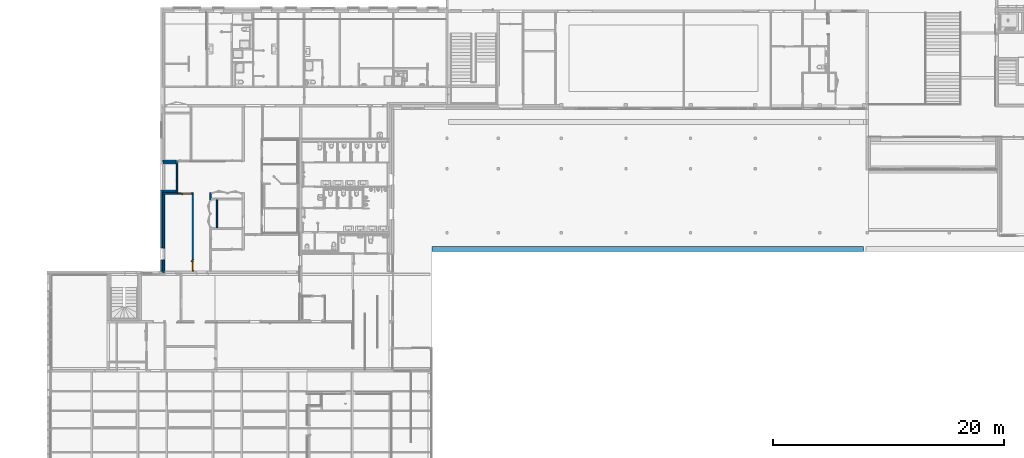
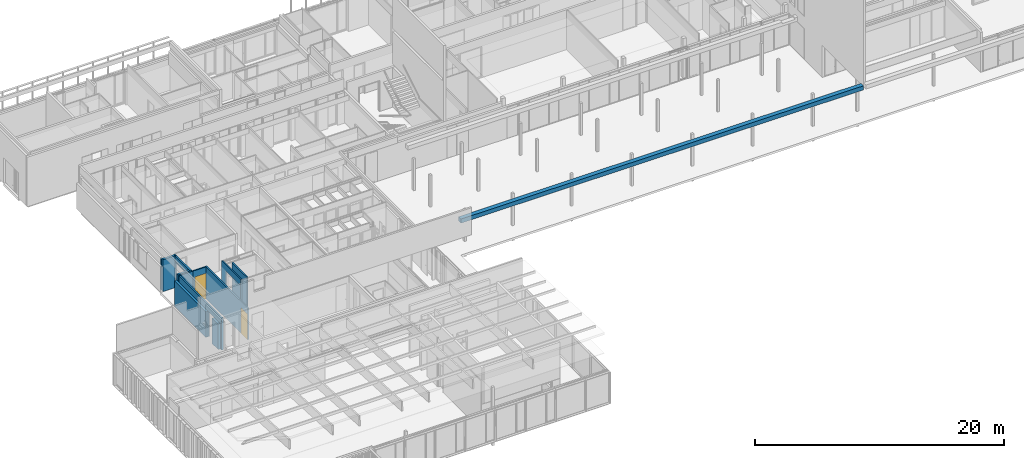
# One storey, part 95 of 240: 13 walls, 2 doors, 14 openings.
"""IFC2X3 building model written with IfcOpenShell, lengths in centimetres."""

from ifc_helpers import new_model, entity, si_unit, converted_unit, derived_unit, direction, frame, frame_2d, origin, origin_2d_with_axis, place, context, subcontext, project, spatial, rectangle, extrude, faceted_brep, source, transform, mapped, material, material_list, layer, layer_set, layer_usage, type_object, type_shapes, element, fill, save


model = new_model("IFC2X3")

# Units and contexts
model_context = context("Model", 3, precision=0.001, world=origin(), true_north=direction((6.12303176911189e-17, 1.0)))
body_context = subcontext(model_context, "Body", "Model", "MODEL_VIEW")
ifc_project = project(units=[si_unit("LENGTHUNIT", "METRE", prefix="CENTI"), si_unit("AREAUNIT", "SQUARE_METRE"), si_unit("VOLUMEUNIT", "CUBIC_METRE"), converted_unit("PLANEANGLEUNIT", "DEGREE", entity("IfcRatioMeasure", 0.0174532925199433), si_unit("PLANEANGLEUNIT", "RADIAN"), dimensions=[0, 0, 0, 0, 0, 0, 0]), si_unit("MASSUNIT", "GRAM", prefix="KILO"), derived_unit("MASSDENSITYUNIT", [(si_unit("MASSUNIT", "GRAM", prefix="KILO"), 1), (si_unit("LENGTHUNIT", "METRE"), -3)]), si_unit("TIMEUNIT", "SECOND"), si_unit("FREQUENCYUNIT", "HERTZ"), si_unit("THERMODYNAMICTEMPERATUREUNIT", "DEGREE_CELSIUS"), derived_unit("THERMALTRANSMITTANCEUNIT", [(si_unit("MASSUNIT", "GRAM", prefix="KILO"), 1), (si_unit("THERMODYNAMICTEMPERATUREUNIT", "KELVIN"), -1), (si_unit("TIMEUNIT", "SECOND"), -3)]), derived_unit("VOLUMETRICFLOWRATEUNIT", [(si_unit("LENGTHUNIT", "METRE"), 3), (si_unit("TIMEUNIT", "SECOND"), -1)]), si_unit("ELECTRICCURRENTUNIT", "AMPERE"), si_unit("ELECTRICVOLTAGEUNIT", "VOLT"), si_unit("POWERUNIT", "WATT"), si_unit("FORCEUNIT", "NEWTON", prefix="KILO"), si_unit("ILLUMINANCEUNIT", "LUX"), si_unit("LUMINOUSFLUXUNIT", "LUMEN"), si_unit("LUMINOUSINTENSITYUNIT", "CANDELA"), derived_unit("USERDEFINED", [(si_unit("MASSUNIT", "GRAM", prefix="KILO"), -1), (si_unit("LENGTHUNIT", "METRE"), -2), (si_unit("TIMEUNIT", "SECOND"), 3), (si_unit("LUMINOUSFLUXUNIT", "LUMEN"), 1)]), derived_unit("LINEARVELOCITYUNIT", [(si_unit("LENGTHUNIT", "METRE"), 1), (si_unit("TIMEUNIT", "SECOND"), -1)]), si_unit("PRESSUREUNIT", "PASCAL"), derived_unit("USERDEFINED", [(si_unit("LENGTHUNIT", "METRE"), -2), (si_unit("MASSUNIT", "GRAM", prefix="KILO"), 1), (si_unit("TIMEUNIT", "SECOND"), -2)])], contexts=[model_context])

# Site, building, storey
site_placement = place(None, frame((-2781.94577612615, 7442.24238424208, 0.0)))
site = spatial("IfcSite", under=ifc_project, at=site_placement, Name="Default", CompositionType="ELEMENT")
building_placement = place(site_placement, origin())
building = spatial("IfcBuilding", under=site, at=building_placement, CompositionType="ELEMENT")
storey_placement = place(building_placement, origin())
storey = spatial("IfcBuildingStorey", under=building, at=storey_placement, Name="N00 - COO", CompositionType="ELEMENT", Elevation=0.0)

# Walls
ifc_material_1 = material(Name="00 - Isolant")
ifc_layer_1 = layer(ifc_material_1, 14.0)
ifc_material_2 = material(Name="01 - Enduit/Plâtre")
ifc_layer_2 = layer(ifc_material_2, 1.3)
ifc_layer_set_1 = layer_set([ifc_layer_1, ifc_layer_2], Name="Mur de base:04 - Parement -  isolant 14 cm + BA13")
ifc_layer_usage_1 = layer_usage(ifc_layer_set_1, "AXIS2", "POSITIVE", -7.65)
wall_type_1 = type_object("IfcWallType", Name="Mur de base:04 - Parement -  isolant 14 cm + BA13", PredefinedType="STANDARD", material=ifc_layer_set_1)
wall_1_placement = place(building_placement, frame((-10881.6130476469, -2398.72903364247, 0.0)))
element("IfcWallStandardCase", 1, at=wall_1_placement, inside=storey, type_object=wall_type_1, material=ifc_layer_usage_1, Name="Mur de base:04 - Parement -  isolant 14 cm + BA13", ObjectType="Mur de base:04 - Parement -  isolant 14 cm + BA13", context=body_context, shape_type="SweptSolid", body=[
    extrude(rectangle(XDim=114.000000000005, YDim=15.3, at=frame_2d((57.0000000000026, 3.5527136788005e-15), x_axis=(-1.0, 0.0))), origin(), (0.0, 0.0, 1.0), 302.0),
])
ifc_layer_usage_2 = layer_usage(ifc_layer_set_1, "AXIS2", "POSITIVE", -7.65)
wall_2_placement = place(building_placement, frame((-10752.3130476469, -2677.42903364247, 0.0), z_axis=(0.0, 0.0, 1.0), x_axis=(-1.0, 0.0, 0.0)))
element("IfcWallStandardCase", 2, at=wall_2_placement, inside=storey, type_object=wall_type_1, material=ifc_layer_usage_2, Name="Mur de base:04 - Parement -  isolant 14 cm + BA13", ObjectType="Mur de base:04 - Parement -  isolant 14 cm + BA13", context=body_context, shape_type="SweptSolid", body=[
    extrude(rectangle(XDim=129.300000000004, YDim=15.3, at=frame_2d((64.6500000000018, 4.66293670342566e-14), x_axis=(-1.0, 0.0))), origin(), (0.0, 0.0, 1.0), 313.0),
])

# Wall, openings
ifc_layer_usage_3 = layer_usage(ifc_layer_set_1, "AXIS2", "NEGATIVE", 7.65)
wall_3_placement = place(building_placement, frame((-10873.9630476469, -3372.52180651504, 0.0), z_axis=(0.0, 0.0, 1.0), x_axis=(0.0, 1.0, 0.0)))
wall_3 = element("IfcWallStandardCase", 3, at=wall_3_placement, inside=storey, type_object=wall_type_1, material=ifc_layer_usage_3, Name="Mur de base:04 - Parement -  isolant 14 cm + BA13", ObjectType="Mur de base:04 - Parement -  isolant 14 cm + BA13", context=body_context, shape_type="SweptSolid", body=[
    extrude(rectangle(XDim=687.442772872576, YDim=15.3000000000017, at=frame_2d((343.721386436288, 4.2499337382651e-13), x_axis=(-1.0, 0.0))), origin(), (0.0, 0.0, 1.0), 313.0),
])
opening_1_placement = place(wall_3_placement, origin())
element("IfcOpeningElement", 4, at=opening_1_placement, cuts=wall_3, Name="Mur de base:04 - Parement -  isolant 14 cm + BA13", ObjectType="Opening", context=body_context, shape_type="SweptSolid", body=[
    extrude(rectangle(XDim=250.000000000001, YDim=99.9999999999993, at=frame_2d((0.0, 2.16715534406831e-13), x_axis=(1.0, 0.0))), frame((168.250226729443, -124.75, 125.0), z_axis=(0.0, 1.0, 0.0), x_axis=(0.0, 0.0, 1.0)), (0.0, 0.0, 1.0), 304.8),
])
opening_2_placement = place(wall_3_placement, origin())
element("IfcOpeningElement", 5, at=opening_2_placement, cuts=wall_3, Name="Mur de base:04 - Parement -  isolant 14 cm + BA13", ObjectType="Opening", context=body_context, shape_type="SweptSolid", body=[
    extrude(rectangle(XDim=175.0, YDim=144.0, at=frame_2d((0.0, 0.0), x_axis=(0.0, 1.0))), frame((1242.44277287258, -22.8899999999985, 162.5), z_axis=(0.0, 1.0, 0.0), x_axis=(-1.0, 0.0, 0.0)), (0.0, 0.0, 1.0), 45.78),
])
opening_3_placement = place(wall_3_placement, origin())
element("IfcOpeningElement", 6, at=opening_3_placement, cuts=wall_3, Name="Mur de base:04 - Parement -  isolant 14 cm + BA13", ObjectType="Opening", context=body_context, shape_type="SweptSolid", body=[
    extrude(rectangle(XDim=265.0, YDim=149.999999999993, at=origin_2d_with_axis()), frame((1537.48228974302, -33.5499999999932, 117.5), z_axis=(0.0, 1.0, 0.0), x_axis=(0.0, 0.0, -1.0)), (0.0, 0.0, 1.0), 61.2999999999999),
])
opening_4_placement = place(wall_3_placement, origin())
element("IfcOpeningElement", 7, at=opening_4_placement, cuts=wall_3, Name="Mur de base:04 - Parement -  isolant 14 cm + BA13", ObjectType="Opening", context=body_context, shape_type="SweptSolid", body=[
    extrude(rectangle(XDim=175.0, YDim=68.0000000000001, at=frame_2d((0.0, 0.0), x_axis=(0.0, 1.0))), frame((1348.44277287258, -144.749999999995, 162.5), z_axis=(0.0, 1.0, 0.0), x_axis=(-1.0, 0.0, 0.0)), (0.0, 0.0, 1.0), 304.8),
])

# Wall
ifc_layer_usage_4 = layer_usage(ifc_layer_set_1, "AXIS2", "NEGATIVE", 7.65)
wall_4_placement = place(storey_placement, frame((-10759.9630476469, -2673.07903364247, 257.0), z_axis=(0.0, 0.0, 1.0), x_axis=(0.0, 1.0, 0.0)))
element("IfcWallStandardCase", 8, at=wall_4_placement, inside=storey, type_object=wall_type_1, material=ifc_layer_usage_4, Name="Mur de base:04 - Parement -  isolant 14 cm + BA13", ObjectType="Mur de base:04 - Parement -  isolant 14 cm + BA13", context=body_context, shape_type="SweptSolid", body=[
    extrude(rectangle(XDim=246.699999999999, YDim=15.3000000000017, at=frame_2d((123.35, 1.59872115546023e-13), x_axis=(-1.0, 0.0))), origin(), (0.0, 0.0, 1.0), 55.9999999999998),
])

# Wall, openings
ifc_layer_usage_5 = layer_usage(ifc_layer_set_1, "AXIS2", "POSITIVE", -7.65)
wall_5_placement = place(building_placement, frame((-10759.9630476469, -2391.07903364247, 0.0), z_axis=(0.0, 0.0, 1.0), x_axis=(0.0, -1.0, 0.0)))
wall_5 = element("IfcWallStandardCase", 9, at=wall_5_placement, inside=storey, type_object=wall_type_1, material=ifc_layer_usage_5, Name="Mur de base:04 - Parement -  isolant 14 cm + BA13", ObjectType="Mur de base:04 - Parement -  isolant 14 cm + BA13", context=body_context, shape_type="SweptSolid", body=[
    extrude(rectangle(XDim=266.699999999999, YDim=15.3, at=frame_2d((145.350000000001, 8.65973959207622e-13), x_axis=(1.0, 0.0))), origin(), (0.0, 0.0, 1.0), 313.0),
])
opening_5_placement = place(building_placement, frame((-10759.9630476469, -2391.07903364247, 0.0), z_axis=(0.0, 0.0, 1.0), x_axis=(0.0, -1.0, 0.0)))
element("IfcOpeningElement", 10, at=opening_5_placement, cuts=wall_5, Name="Mur de base:04 - Parement -  isolant 14 cm + BA13:1", ObjectType="Opening", context=body_context, shape_type="SweptSolid", body=[
    extrude(rectangle(XDim=5.21225432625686, YDim=0.173074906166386, at=frame_2d((8.66196003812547e-13, -2.16569817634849e-13), x_axis=(1.0, 0.0))), frame((35.386537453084, 5.0438728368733, 250.0), z_axis=(0.0, 0.0, 1.0), x_axis=(0.0, -1.0, 0.0)), (0.0, 0.0, 1.0), 6.99999999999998),
])
opening_6_placement = place(wall_5_placement, frame((-2391.07903364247, 10759.9630476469, 0.0), z_axis=(0.0, 0.0, 1.0), x_axis=(0.0, 1.0, 0.0)))
element("IfcOpeningElement", 11, at=opening_6_placement, cuts=wall_5, Name="Mur de base:04 - Parement -  isolant 14 cm + BA13", ObjectType="Opening", context=body_context, shape_type="SweptSolid", body=[
    extrude(rectangle(XDim=265.000000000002, YDim=223.226925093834, at=frame_2d((0.0, 0.0), x_axis=(0.0, 1.0))), frame((-10767.7130476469, -2538.16557109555, 117.500000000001), z_axis=(1.0, 0.0, 0.0), x_axis=(0.0, -1.0, 0.0)), (0.0, 0.0, 1.0), 61.1877456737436),
])

# Walls
ifc_material_3 = material(Name="01 - Maçonnerie")
ifc_layer_3 = layer(ifc_material_3, 20.0)
ifc_layer_set_2 = layer_set([ifc_layer_3], Name="Mur de base:04 - Structure - béton - 20cm")
ifc_layer_usage_6 = layer_usage(ifc_layer_set_2, "AXIS2", "NEGATIVE", 10.0)
wall_type_2 = type_object("IfcWallType", Name="Mur de base:04 - Structure - béton - 20cm", PredefinedType="STANDARD", material=ifc_layer_set_2)
wall_6_placement = place(building_placement, frame((-10767.6130476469, -2416.37903364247, 0.0), z_axis=(0.0, 0.0, 1.0), x_axis=(-1.0, 0.0, 0.0)))
element("IfcWallStandardCase", 12, at=wall_6_placement, inside=storey, type_object=wall_type_2, material=ifc_layer_usage_6, Name="Mur de base:04 - Structure - béton - 20cm", ObjectType="Mur de base:04 - Structure - béton - 20cm", context=body_context, shape_type="SweptSolid", body=[
    extrude(rectangle(XDim=114.000000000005, YDim=19.9999999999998, at=frame_2d((57.0000000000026, 1.86517468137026e-14), x_axis=(-1.0, 0.0))), origin(), (0.0, 0.0, 1.0), 313.0),
])
ifc_layer_usage_7 = layer_usage(ifc_layer_set_2, "AXIS2", "NEGATIVE", 10.0)
wall_7_placement = place(building_placement, frame((-10767.6130476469, -2659.77903364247, 0.0), z_axis=(0.0, 0.0, 1.0), x_axis=(-1.0, 0.0, 0.0)))
element("IfcWallStandardCase", 13, at=wall_7_placement, inside=storey, type_object=wall_type_2, material=ifc_layer_usage_7, Name="Mur de base:04 - Structure - béton - 20cm", ObjectType="Mur de base:04 - Structure - béton - 20cm", context=body_context, shape_type="SweptSolid", body=[
    extrude(rectangle(XDim=114.0, YDim=19.9999999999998, at=frame_2d((57.0, -1.77635683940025e-14), x_axis=(-1.0, 0.0))), origin(), (0.0, 0.0, 1.0), 313.00000000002),
])

# Wall, openings
ifc_layer_usage_8 = layer_usage(ifc_layer_set_2, "AXIS2", "NEGATIVE", 10.0)
wall_8_placement = place(building_placement, frame((-10891.6130476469, -2649.77903364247, 0.0), z_axis=(0.0, 0.0, 1.0), x_axis=(0.0, -1.0, 0.0)))
wall_8 = element("IfcWallStandardCase", 14, at=wall_8_placement, inside=storey, type_object=wall_type_2, material=ifc_layer_usage_8, Name="Mur de base:04 - Structure - béton - 20cm", ObjectType="Mur de base:04 - Structure - béton - 20cm", context=body_context, shape_type="SweptSolid", body=[
    extrude(rectangle(XDim=702.742772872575, YDim=19.9999999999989, at=frame_2d((351.371386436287, -4.04121180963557e-13), x_axis=(-1.0, 0.0))), origin(), (0.0, 0.0, 1.0), 249.999999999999),
])
opening_7_placement = place(wall_8_placement, origin())
element("IfcOpeningElement", 15, at=opening_7_placement, cuts=wall_8, Name="Mur de base:04 - Structure - béton - 20cm", ObjectType="Opening", context=body_context, shape_type="SweptSolid", body=[
    extrude(rectangle(XDim=175.0, YDim=144.0, at=frame_2d((-2.8421709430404e-14, 0.0), x_axis=(1.0, 0.0))), frame((-519.7, -25.2400000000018, 162.5), z_axis=(0.0, 1.0, 0.0), x_axis=(0.0, 0.0, 1.0)), (0.0, 0.0, 1.0), 50.4800000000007),
])
opening_8_placement = place(wall_8_placement, origin())
element("IfcOpeningElement", 16, at=opening_8_placement, cuts=wall_8, Name="Mur de base:04 - Structure - béton - 20cm", ObjectType="Opening", context=body_context, shape_type="SweptSolid", body=[
    extrude(rectangle(XDim=265.0, YDim=149.999999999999, at=frame_2d((0.0, -1.06581410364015e-13), x_axis=(1.0, 0.0))), frame((-814.739516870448, -10.1000000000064, 117.5), z_axis=(0.0, 1.0, 0.0), x_axis=(0.0, 0.0, -1.0)), (0.0, 0.0, 1.0), 61.2999999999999),
])
opening_9_placement = place(wall_8_placement, origin())
element("IfcOpeningElement", 17, at=opening_9_placement, cuts=wall_8, Name="Mur de base:04 - Structure - béton - 20cm", ObjectType="Opening", context=body_context, shape_type="SweptSolid", body=[
    extrude(rectangle(XDim=175.0, YDim=68.0000000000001, at=frame_2d((-2.1316282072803e-14, 0.0), x_axis=(1.0, 0.0))), frame((-625.699999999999, -142.400000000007, 162.5), z_axis=(0.0, 1.0, 0.0), x_axis=(0.0, 0.0, 1.0)), (0.0, 0.0, 1.0), 304.8),
])
opening_10_placement = place(wall_8_placement, frame((604.492546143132, 10.0, 0.0)))
element("IfcOpeningElement", 18, at=opening_10_placement, cuts=wall_8, Name="Int. Simple:PP EXT - Local poubelle  (0.93m x 2.50m):1", ObjectType="Opening", context=body_context, shape_type="SweptSolid", body=[
    extrude(rectangle(XDim=250.000000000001, YDim=99.9999999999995, at=frame_2d((125.000000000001, 49.9999999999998), x_axis=(1.0, 0.0))), frame((0.0, 0.0, 0.0), z_axis=(0.0, -1.0, 0.0), x_axis=(0.0, 0.0, 1.0)), (0.0, 0.0, 1.0), 20.0),
])

# Wall
ifc_layer_4 = layer(ifc_material_3, 40.0)
ifc_layer_set_3 = layer_set([ifc_layer_4], Name="Mur de base:04 - Structure - Béton - 40")
ifc_layer_usage_9 = layer_usage(ifc_layer_set_3, "AXIS2", "NEGATIVE", 20.0)
wall_type_3 = type_object("IfcWallType", Name="Mur de base:04 - Structure - Béton - 40", PredefinedType="STANDARD", material=ifc_layer_set_3)
wall_9_placement = place(building_placement, frame((-8548.98738089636, -3160.31349958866, 313.0)))
element("IfcWallStandardCase", 19, at=wall_9_placement, inside=storey, type_object=wall_type_3, material=ifc_layer_usage_9, Name="Mur de base:04 - Structure - Béton - 40", ObjectType="Mur de base:04 - Structure - Béton - 40", context=body_context, shape_type="SweptSolid", body=[
    extrude(rectangle(XDim=3736.98750329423, YDim=39.9999999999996, at=frame_2d((1868.49375164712, -9.59232693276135e-14), x_axis=(-1.0, 0.0))), origin(), (0.0, 0.0, 1.0), 40.0),
])

# Wall, opening, door
ifc_layer_5 = layer(ifc_material_2, 1.0)
ifc_material_4 = material(Name="Maçonnerie - Béton")
ifc_layer_6 = layer(ifc_material_4, 10.0)
ifc_layer_7 = layer(ifc_material_2, 1.0)
ifc_layer_set_4 = layer_set([ifc_layer_5, ifc_layer_6, ifc_layer_7], Name="Mur de base:06 - cloisons - agglos10 + faïence 12cm")
ifc_layer_usage_10 = layer_usage(ifc_layer_set_4, "AXIS2", "NEGATIVE", 6.0)
wall_type_4 = type_object("IfcWallType", Name="Mur de base:06 - cloisons - agglos10 + faïence 12cm", PredefinedType="STANDARD", material=ifc_layer_set_4)
wall_10_placement = place(building_placement, frame((-10622.6130476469, -2673.07903364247, 0.0), z_axis=(0.0, 0.0, 1.0), x_axis=(0.0, -1.0, 0.0)))
wall_10 = element("IfcWallStandardCase", 20, at=wall_10_placement, inside=storey, type_object=wall_type_4, material=ifc_layer_usage_10, Name="Mur de base:06 - cloisons - agglos10 + faïence 12cm", ObjectType="Mur de base:06 - cloisons - agglos10 + faïence 12cm", context=body_context, shape_type="SweptSolid", body=[
    extrude(rectangle(XDim=679.442772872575, YDim=12.0000000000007, at=frame_2d((339.721386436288, -1.54987134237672e-13), x_axis=(-1.0, 0.0))), origin(), (0.0, 0.0, 1.0), 313.0),
])
opening_11_placement = place(wall_10_placement, frame((677.942772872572, 6.0, 0.0)))
opening_11 = element("IfcOpeningElement", 21, at=opening_11_placement, cuts=wall_10, Name="Int. Simple:PP simple (0.93m x 2.50m):1", ObjectType="Opening", context=body_context, shape_type="SweptSolid", body=[
    extrude(rectangle(XDim=248.500000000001, YDim=99.9999999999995, at=frame_2d((124.250000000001, 49.9999999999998), x_axis=(1.0, 0.0))), frame((0.0, 0.0, 0.0), z_axis=(0.0, -1.0, 0.0), x_axis=(0.0, 0.0, 1.0)), (0.0, 0.0, 1.0), 12.0),
])
ifc_material_5 = material(Name="Finition Peinture - Blanc satiné")
ifc_material_6 = material(Name="Bois - Panneau de porte")
ifc_material_7 = material(Name="Bois - Cadre de porte")
ifc_material_list_1 = material_list([ifc_material_5, ifc_material_6, ifc_material_7])
ifc_material_list_2 = material_list([ifc_material_5, ifc_material_6, ifc_material_7])
door_style = type_object("IfcDoorStyle", Name="PP simple (0.93m x 2.50m)", ConstructionType="NOTDEFINED", OperationType="SINGLE_SWING_LEFT", ParameterTakesPrecedence=False, Sizeable=False, material=ifc_material_list_2)
shared_shape = source(origin(), body_context, "Body", "Brep", [
    faceted_brep([(10.5352761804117, -0.500000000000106, 86.6003983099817), (11.5000000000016, -0.500000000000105, 87.0), (11.5000000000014, -0.500000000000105, 108.0), (10.5352761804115, -0.500000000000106, 108.399601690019), (9.50000000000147, -0.500000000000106, 108.535898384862), (8.46472381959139, -0.500000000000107, 108.399601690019), (7.50000000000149, -0.500000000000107, 108.0), (7.50000000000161, -0.500000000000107, 87.0), (8.46472381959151, -0.500000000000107, 86.6003983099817), (9.50000000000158, -0.500000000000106, 86.464101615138), (10.5352761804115, 0.0, 108.399601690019), (11.5000000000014, 0.0, 108.0), (11.5000000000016, 0.0, 87.0), (10.5352761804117, 0.0, 86.6003983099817), (9.50000000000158, 0.0, 86.464101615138), (8.46472381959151, 0.0, 86.6003983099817), (7.50000000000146, 0.0, 87.0), (7.50000000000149, 0.0, 108.0), (8.46472381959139, 0.0, 108.399601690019), (9.50000000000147, 0.0, 108.535898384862)], [[[0, 1, 2, 3, 4, 5, 6, 7, 8, 9]], [[10, 11, 12, 13, 14, 15, 16, 17, 18, 19]], [[16, 15, 8, 7]], [[8, 15, 14, 9]], [[14, 13, 0, 9]], [[13, 12, 1, 0]], [[2, 1, 12, 11]], [[11, 10, 3, 2]], [[3, 10, 19, 4]], [[19, 18, 5, 4]], [[18, 17, 6, 5]], [[7, 6, 17, 16]]]),
    faceted_brep([(10.5352761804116, 4.0, 86.6003983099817), (11.5000000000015, 4.0, 87.0), (11.5000000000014, 4.0, 108.0), (10.5352761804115, 4.0, 108.399601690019), (9.50000000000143, 4.0, 108.535898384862), (8.46472381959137, 4.0, 108.399601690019), (7.50000000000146, 4.0, 108.0), (7.50000000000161, 4.0, 87.0), (8.46472381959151, 4.0, 86.6003983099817), (9.50000000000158, 4.0, 86.464101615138), (10.5352761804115, 4.49999999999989, 108.399601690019), (11.5000000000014, 4.49999999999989, 108.0), (11.5000000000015, 4.49999999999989, 87.0), (10.5352761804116, 4.49999999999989, 86.6003983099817), (9.50000000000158, 4.49999999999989, 86.464101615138), (8.46472381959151, 4.49999999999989, 86.6003983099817), (7.50000000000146, 4.49999999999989, 87.0), (7.50000000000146, 4.49999999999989, 108.0), (8.46472381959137, 4.49999999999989, 108.399601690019), (9.50000000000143, 4.49999999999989, 108.535898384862)], [[[0, 1, 2, 3, 4, 5, 6, 7, 8, 9]], [[10, 11, 12, 13, 14, 15, 16, 17, 18, 19]], [[11, 10, 3, 2]], [[3, 10, 19, 4]], [[19, 18, 5, 4]], [[18, 17, 6, 5]], [[7, 6, 17, 16]], [[16, 15, 8, 7]], [[8, 15, 14, 9]], [[14, 13, 0, 9]], [[13, 12, 1, 0]], [[2, 1, 12, 11]]]),
    faceted_brep([(9.29747013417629, -0.500000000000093, 100.778044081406), (9.70252986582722, -0.500000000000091, 100.778044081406), (10.1000000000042, -0.500000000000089, 100.699999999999), (10.1000000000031, -0.500000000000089, 99.3000000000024), (9.7025298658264, -0.500000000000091, 99.2219559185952), (9.29747013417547, -0.500000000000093, 99.221955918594), (8.8999999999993, -0.500000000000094, 99.2999999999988), (8.89999999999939, -0.500000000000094, 100.7), (8.89999999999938, -3.26509507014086, 100.7), (9.29747013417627, -3.10045754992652, 100.778044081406), (10.9023585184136, -4.70534593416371, 100.778044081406), (11.0701397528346, -4.30028620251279, 100.778044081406), (9.7025298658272, -2.93267631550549, 100.778044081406), (10.1000000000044, -2.76803879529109, 100.7), (10.1000000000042, -2.76803879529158, 99.3000000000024), (9.7025298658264, -2.93267631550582, 99.2219559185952), (11.0701397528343, -4.30028620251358, 99.2219559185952), (10.9023585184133, -4.7053459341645, 99.221955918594), (9.29747013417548, -3.10045754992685, 99.221955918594), (8.89999999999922, -3.26509507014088, 99.2999999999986), (10.7377209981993, -5.10281606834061, 100.7), (11.2347772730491, -3.90281606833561, 100.7), (11.2347772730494, -3.90281606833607, 99.3000000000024), (10.7377209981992, -5.10281606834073, 99.2999999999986), (19.5018640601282, -5.10281606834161, 99.2999999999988), (19.5018640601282, -4.70534593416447, 99.221955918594), (19.5018640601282, -4.30028620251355, 99.2219559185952), (19.5018640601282, -3.9028160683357, 99.3000000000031), (19.5018640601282, -3.90281606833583, 100.7), (19.5018640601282, -4.30028620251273, 100.778044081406), (19.5018640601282, -4.70534593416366, 100.778044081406), (19.5018640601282, -5.10281606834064, 100.699999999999), (14.7307697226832, -5.10281606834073, 100.7), (15.2860019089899, -4.5028160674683, 100.78786867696), (15.3683206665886, -3.9028160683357, 100.7), (15.3683206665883, -3.9028160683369, 99.3000000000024), (15.2860018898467, -4.50281607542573, 99.2121313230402), (14.7307700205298, -5.10281606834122, 99.2999999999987)], [[[0, 1, 2, 3, 4, 5, 6, 7]], [[8, 9, 0, 7]], [[9, 10, 11, 12, 1, 0]], [[12, 13, 2, 1]], [[3, 2, 13, 14]], [[14, 15, 4, 3]], [[15, 16, 17, 18, 5, 4]], [[18, 19, 6, 5]], [[7, 6, 19, 8]], [[20, 10, 9, 8]], [[11, 21, 13, 12]], [[14, 13, 21, 22]], [[22, 16, 15, 14]], [[17, 23, 19, 18]], [[8, 19, 23, 20]], [[24, 25, 26, 27, 28, 29, 30, 31]], [[32, 30, 33]], [[31, 30, 32]], [[10, 20, 32]], [[33, 34, 11]], [[21, 11, 34]], [[34, 29, 28]], [[30, 29, 33]], [[29, 34, 33]], [[10, 32, 33]], [[10, 33, 11]], [[22, 21, 34, 28, 27, 35]], [[35, 26, 36]], [[37, 36, 25]], [[22, 35, 16]], [[35, 27, 26]], [[24, 37, 25]], [[23, 17, 37]], [[37, 17, 36]], [[17, 16, 36]], [[16, 35, 36]], [[25, 36, 26]], [[20, 23, 37, 24, 31, 32]]]),
    faceted_brep([(9.29747013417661, 4.49999999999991, 100.778044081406), (8.89999999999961, 4.4999999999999, 100.7), (8.89999999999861, 4.4999999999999, 99.2999999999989), (9.29747013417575, 4.49999999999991, 99.221955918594), (9.70252986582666, 4.49999999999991, 99.2219559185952), (10.1000000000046, 4.49999999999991, 99.3000000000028), (10.1000000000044, 4.49999999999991, 100.7), (9.70252986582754, 4.49999999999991, 100.778044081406), (10.1000000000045, 6.7485204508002, 99.3000000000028), (10.1000000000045, 6.74852045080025, 100.7), (9.70252986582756, 6.91315797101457, 100.778044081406), (11.083890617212, 8.29451872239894, 100.778044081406), (10.916109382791, 8.69957845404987, 100.778044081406), (9.29747013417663, 7.0809392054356, 100.778044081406), (8.89999999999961, 7.24557672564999, 100.7), (8.89999999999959, 7.2455767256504, 99.2999999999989), (9.29747013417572, 7.08093920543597, 99.221955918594), (10.9161093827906, 8.69957845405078, 99.221955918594), (11.0838906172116, 8.29451872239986, 99.2219559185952), (9.70252986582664, 6.91315797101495, 99.2219559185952), (11.2485281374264, 7.89704858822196, 99.3000000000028), (11.2485281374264, 7.89704858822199, 100.7), (10.7514718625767, 9.09704858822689, 100.7), (10.7514718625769, 9.0970485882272, 99.2999999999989), (19.5045783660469, 7.89704858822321, 99.3000000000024), (19.5045783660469, 8.29451872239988, 99.2219559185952), (19.5045783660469, 8.6995784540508, 99.221955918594), (19.5045783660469, 9.09704858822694, 99.2999999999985), (19.5045783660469, 9.09704858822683, 100.7), (19.5045783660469, 8.69957845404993, 100.778044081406), (19.5045783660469, 8.29451872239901, 100.778044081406), (19.5045783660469, 7.89704858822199, 100.7), (15.3765520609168, 7.89704858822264, 99.3000000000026), (15.3765532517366, 7.89704858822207, 100.7), (15.294234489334, 8.49704858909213, 100.78786867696), (14.7445205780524, 9.09704858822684, 100.7), (14.7445204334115, 9.09704858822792, 99.2999999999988), (15.2942345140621, 8.49704858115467, 99.2121313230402)], [[[0, 1, 2, 3, 4, 5, 6, 7]], [[6, 5, 8, 9]], [[9, 10, 7, 6]], [[10, 11, 12, 13, 0, 7]], [[13, 14, 1, 0]], [[2, 1, 14, 15]], [[15, 16, 3, 2]], [[16, 17, 18, 19, 4, 3]], [[19, 8, 5, 4]], [[9, 8, 20, 21]], [[21, 11, 10, 9]], [[12, 22, 14, 13]], [[15, 14, 22, 23]], [[23, 17, 16, 15]], [[18, 20, 8, 19]], [[24, 25, 26, 27, 28, 29, 30, 31]], [[21, 20, 32, 24, 31, 33]], [[33, 30, 34]], [[35, 34, 29]], [[21, 33, 11]], [[33, 31, 30]], [[28, 35, 29]], [[22, 12, 35]], [[35, 12, 34]], [[12, 11, 34]], [[11, 33, 34]], [[29, 34, 30]], [[22, 35, 28, 27, 36, 23]], [[36, 26, 37]], [[27, 26, 36]], [[17, 23, 36]], [[37, 32, 18]], [[20, 18, 32]], [[32, 25, 24]], [[26, 25, 37]], [[25, 32, 37]], [[17, 36, 37]], [[17, 37, 18]]]),
    faceted_brep([(3.50000000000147, 4.0, 245.0), (96.5000000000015, 4.0, 245.0), (96.5000000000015, 4.0, 0.0), (3.50000000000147, 4.0, 0.0), (3.50000000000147, 0.0, 245.0), (3.50000000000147, 0.0, 0.0), (96.5000000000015, 0.0, 0.0), (96.5000000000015, 0.0, 245.0)], [[[0, 1, 2, 3]], [[4, 5, 6, 7]], [[1, 0, 4, 7]], [[2, 1, 7, 6]], [[3, 2, 6, 5]], [[0, 3, 5, 4]]]),
    faceted_brep([(0.0, 12.0, 0.0), (-1.50000000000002, 12.0, 0.0), (-1.50000000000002, 12.5000000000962, 0.0), (5.0, 12.5000000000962, 0.0), (5.0, 4.0, 0.0), (3.50000000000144, 4.0, 0.0), (3.50000000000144, -0.500000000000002, 0.0), (-1.50000000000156, -0.500000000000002, 0.0), (-1.50000000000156, 0.0, 0.0), (0.0, 0.0, 0.0), (0.0, 0.0, 248.500000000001), (0.0, 12.0, 248.500000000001), (100.0, 12.0, 248.500000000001), (100.0, 12.0, 0.0), (101.5, 12.0, 0.0), (101.5, 12.0, 250.0), (-1.50000000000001, 12.0, 250.0), (5.0, 12.5000000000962, 243.5), (5.0, 4.0, 243.5), (95.0, 4.0, 243.5), (95.0, 4.0, 0.0), (96.499999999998, 4.0, 0.0), (96.499999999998, 4.0, 245.0), (3.50000000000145, 4.0, 245.0), (100.0, 0.0, 248.500000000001), (100.0, 0.0, 0.0), (101.500000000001, 0.0, 0.0), (101.500000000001, -0.500000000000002, 0.0), (96.499999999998, -0.500000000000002, 0.0), (95.0, 12.5000000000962, 0.0), (101.5, 12.5000000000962, 0.0), (95.0, 12.5000000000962, 243.5), (3.50000000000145, -0.500000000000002, 245.0), (96.499999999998, -0.500000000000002, 245.0), (101.500000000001, -0.500000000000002, 250.0), (-1.50000000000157, -0.500000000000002, 250.0), (-1.50000000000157, 0.0, 250.0), (101.500000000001, 0.0, 250.0), (-1.50000000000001, 12.5000000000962, 250.0), (101.5, 12.5000000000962, 250.0)], [[[0, 1, 2, 3, 4, 5, 6, 7, 8, 9]], [[0, 9, 10, 11]], [[1, 0, 11, 12, 13, 14, 15, 16]], [[3, 17, 18, 4]], [[5, 4, 18, 19, 20, 21, 22, 23]], [[12, 24, 25, 13]], [[13, 25, 26, 27, 28, 21, 20, 29, 30, 14]], [[19, 31, 29, 20]], [[11, 10, 24, 12]], [[18, 17, 31, 19]], [[5, 23, 32, 6]], [[7, 6, 32, 33, 28, 27, 34, 35]], [[8, 7, 35, 36]], [[9, 8, 36, 37, 26, 25, 24, 10]], [[2, 1, 16, 38]], [[3, 2, 38, 39, 30, 29, 31, 17]], [[33, 22, 21, 28]], [[37, 34, 27, 26]], [[39, 15, 14, 30]], [[32, 23, 22, 33]], [[36, 35, 34, 37]], [[38, 16, 15, 39]]]),
])
type_shapes(door_style, [shared_shape])
door_1_placement = place(opening_11_placement, frame((-100.0, -12.0, 0.0)))
door_1 = element("IfcDoor", 22, at=door_1_placement, inside=storey, type_object=door_style, material=ifc_material_list_1, Name="Int. Simple:PP simple (0.93m x 2.50m)", ObjectType="Int. Simple:PP simple (0.93m x 2.50m)", OverallHeight=248.500000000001, OverallWidth=99.9999999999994, context=body_context, shape_type="MappedRepresentation", body=[
    mapped(shared_shape, transform((0.0, 0.0, 0.0), scale=1.0)),
])
fill(opening_11, door_1)

# Wall, openings
ifc_layer_usage_11 = layer_usage(ifc_layer_set_4, "AXIS2", "NEGATIVE", 6.0)
wall_11_placement = place(building_placement, frame((-10470.6130476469, -2673.07903364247, 0.0), z_axis=(0.0, 0.0, 1.0), x_axis=(0.0, -1.0, 0.0)))
wall_11 = element("IfcWallStandardCase", 23, at=wall_11_placement, inside=storey, type_object=wall_type_4, material=ifc_layer_usage_11, Name="Mur de base:06 - cloisons - agglos10 + faïence 12cm", ObjectType="Mur de base:06 - cloisons - agglos10 + faïence 12cm", context=body_context, shape_type="SweptSolid", body=[
    extrude(rectangle(XDim=305.000000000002, YDim=12.0000000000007, at=frame_2d((152.500000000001, 0.0), x_axis=(-1.0, 0.0))), origin(), (0.0, 0.0, 1.0), 313.0),
])
opening_12_placement = place(wall_11_placement, frame((182.500000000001, 6.0, 0.0)))
element("IfcOpeningElement", 24, at=opening_12_placement, cuts=wall_11, Name="Int. Double:PP Placard (1.10m x 2.50m):1", ObjectType="Opening", context=body_context, shape_type="SweptSolid", body=[
    extrude(rectangle(XDim=248.500000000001, YDim=117.0, at=frame_2d((124.250000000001, 58.5000000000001), x_axis=(1.0, 0.0))), frame((0.0, 0.0, 0.0), z_axis=(0.0, -1.0, 0.0), x_axis=(0.0, 0.0, 1.0)), (0.0, 0.0, 1.0), 12.0),
])
opening_13_placement = place(wall_11_placement, frame((299.500000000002, 6.0, 0.0)))
element("IfcOpeningElement", 25, at=opening_13_placement, cuts=wall_11, Name="Int. Double:PP Placard (1.10m x 2.50m):1", ObjectType="Opening", context=body_context, shape_type="SweptSolid", body=[
    extrude(rectangle(XDim=248.500000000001, YDim=117.0, at=frame_2d((124.250000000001, 58.5000000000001), x_axis=(1.0, 0.0))), frame((0.0, 0.0, 0.0), z_axis=(0.0, -1.0, 0.0), x_axis=(0.0, 0.0, 1.0)), (0.0, 0.0, 1.0), 12.0),
])

# Wall
ifc_layer_usage_12 = layer_usage(ifc_layer_set_4, "AXIS2", "NEGATIVE", 6.0)
wall_12_placement = place(building_placement, frame((-10412.6130476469, -2735.07903364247, 0.0), z_axis=(0.0, 0.0, 1.0), x_axis=(0.0, -1.0, 0.0)))
element("IfcWallStandardCase", 26, at=wall_12_placement, inside=storey, type_object=wall_type_4, material=ifc_layer_usage_12, Name="Mur de base:06 - cloisons - agglos10 + faïence 12cm", ObjectType="Mur de base:06 - cloisons - agglos10 + faïence 12cm", context=body_context, shape_type="SweptSolid", body=[
    extrude(rectangle(XDim=243.0, YDim=12.0000000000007, at=frame_2d((121.5, 0.0), x_axis=(-1.0, 0.0))), origin(), (0.0, 0.0, 1.0), 313.0),
])

# Wall, opening, door
ifc_layer_usage_13 = layer_usage(ifc_layer_set_4, "AXIS2", "NEGATIVE", 6.0)
wall_13_placement = place(building_placement, frame((-10752.3130476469, -2679.07903364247, 0.0)))
wall_13 = element("IfcWallStandardCase", 27, at=wall_13_placement, inside=storey, type_object=wall_type_4, material=ifc_layer_usage_13, Name="Mur de base:06 - cloisons - agglos10 + faïence 12cm", ObjectType="Mur de base:06 - cloisons - agglos10 + faïence 12cm", context=body_context, shape_type="SweptSolid", body=[
    extrude(rectangle(XDim=123.7, YDim=11.9999999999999, at=frame_2d((61.8499999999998, -1.02140518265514e-14), x_axis=(-1.0, 0.0))), origin(), (0.0, 0.0, 1.0), 313.0),
])
opening_14_placement = place(wall_13_placement, frame((122.199999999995, 6.0, 0.0)))
opening_14 = element("IfcOpeningElement", 28, at=opening_14_placement, cuts=wall_13, Name="Int. Simple:PP simple (0.93m x 2.50m):1", ObjectType="Opening", context=body_context, shape_type="SweptSolid", body=[
    extrude(rectangle(XDim=248.500000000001, YDim=99.9999999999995, at=frame_2d((124.250000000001, 50.0), x_axis=(1.0, 0.0))), frame((0.0, 0.0, 0.0), z_axis=(0.0, -1.0, 0.0), x_axis=(0.0, 0.0, 1.0)), (0.0, 0.0, 1.0), 12.0),
])
ifc_material_list_3 = material_list([ifc_material_5, ifc_material_6, ifc_material_7])
door_2_placement = place(opening_14_placement, frame((-100.0, -12.0, 0.0)))
door_2 = element("IfcDoor", 29, at=door_2_placement, inside=storey, type_object=door_style, material=ifc_material_list_3, Name="Int. Simple:PP simple (0.93m x 2.50m)", ObjectType="Int. Simple:PP simple (0.93m x 2.50m)", OverallHeight=248.500000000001, OverallWidth=99.9999999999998, context=body_context, shape_type="MappedRepresentation", body=[
    mapped(shared_shape, transform((0.0, 0.0, 0.0), scale=1.0)),
])
fill(opening_14, door_2)

save(model, "model.ifc")
